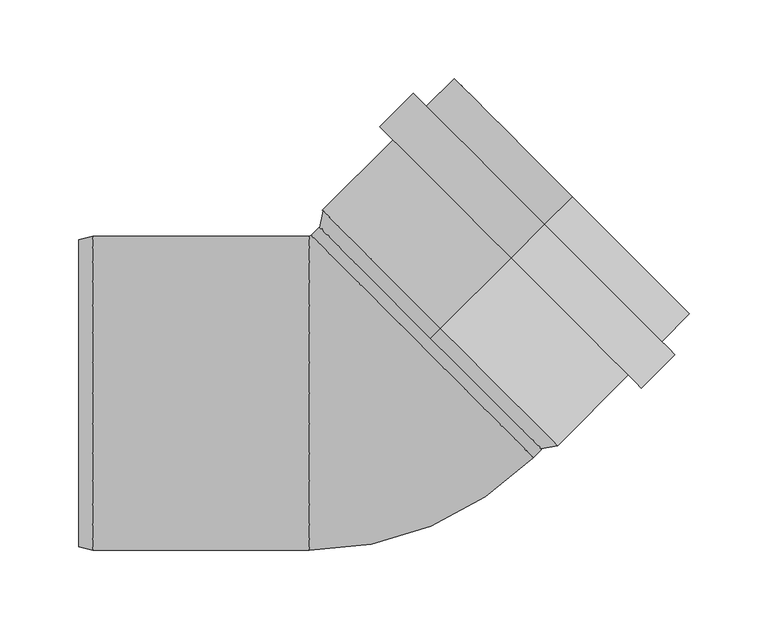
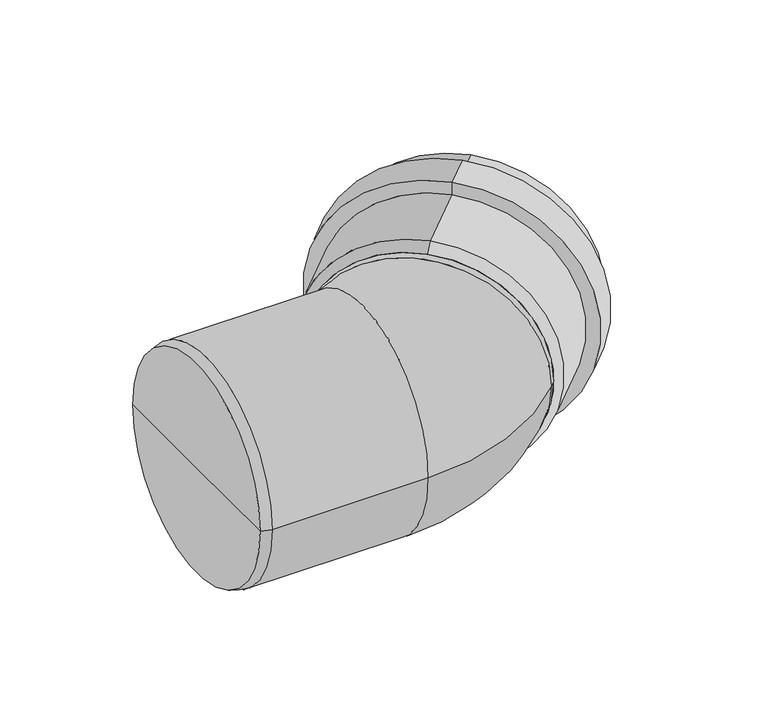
"""IFC4 building model written with IfcOpenShell, lengths in millimetres: pipe fitting geometry, OSMA_KG2000_PPKGB : Koleno 45°."""

from ifc_helpers import new_model, si_unit, point, frame, origin, place, context, project, spatial, polyline, circle_curve, ellipse_curve, trimmed, source, transform, mapped, element, save
from ifc_brep_helpers import plane_surface, cylinder_surface, revolved_surface, advanced_brep


def pipe_fitting_bca91d10(model_context):
    return source(origin(), model_context, "Body", "AdvancedBrep", [
        advanced_brep(
        [(41.3657467, 41.3657467, 100.0), (41.3657467, 41.3657467, -100.0), (125.1579003, 125.1579003, -100.0), (125.1579003, 125.1579003, 100.0), (86.2670273, 86.2670273, 106.2), (86.2670273, 86.2670273, -106.2), (41.3657467, 41.3657467, -106.2), (41.3657467, 41.3657467, 106.2), (86.2670273, 86.2670273, 118.0), (86.2670273, 86.2670273, -118.0), (107.4802307, 107.4802307, 118.0), (107.4802307, 107.4802307, -118.0), (107.4802307, 107.4802307, 106.2), (107.4802307, 107.4802307, -106.2), (125.1579003, 125.1579003, 106.2), (125.1579003, 125.1579003, -106.2), (35.0017857, 35.0017857, 93.8), (35.0017857, 35.0017857, -93.8), (35.0017857, 35.0017857, 100.0), (35.0017857, 35.0017857, -100.0)],
        [
            (0, 1, circle_curve(frame((41.3657467, 41.3657467, 0.0), z_axis=(-0.707106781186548, -0.707106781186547, 0.0), x_axis=(0.0, 0.0, -1.0)), 100.0)),
            (1, 2),
            (2, 3, circle_curve(frame((125.1579003, 125.1579003, 0.0), z_axis=(0.707106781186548, 0.707106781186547, 0.0), x_axis=(0.0, 0.0, -1.0)), 100.0)),
            (3, 0),
            (1, 0, circle_curve(frame((41.3657467, 41.3657467, 0.0), z_axis=(-0.707106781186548, -0.707106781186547, 0.0), x_axis=(0.0, 0.0, -1.0)), 100.0)),
            (3, 2, circle_curve(frame((125.1579003, 125.1579003, 0.0), z_axis=(0.707106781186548, 0.707106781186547, 0.0), x_axis=(0.0, 0.0, -1.0)), 100.0)),
            (4, 5, circle_curve(frame((86.2670273, 86.2670273, 0.0), z_axis=(-0.707106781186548, -0.707106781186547, 0.0), x_axis=(0.0, 0.0, -1.0)), 106.2)),
            (5, 6),
            (6, 7, circle_curve(frame((41.3657467, 41.3657467, 0.0), z_axis=(0.707106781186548, 0.707106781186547, 0.0), x_axis=(0.0, 0.0, -1.0)), 106.2)),
            (7, 4),
            (5, 4, circle_curve(frame((86.2670273, 86.2670273, 0.0), z_axis=(-0.707106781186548, -0.707106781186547, 0.0), x_axis=(0.0, 0.0, -1.0)), 106.2)),
            (7, 6, circle_curve(frame((41.3657467, 41.3657467, 0.0), z_axis=(0.707106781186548, 0.707106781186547, 0.0), x_axis=(0.0, 0.0, -1.0)), 106.2)),
            (8, 9, circle_curve(frame((86.2670273, 86.2670273, 0.0), z_axis=(-0.707106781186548, -0.707106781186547, 0.0), x_axis=(0.0, 0.0, -1.0)), 118.0)),
            (9, 5),
            (4, 8),
            (9, 8, circle_curve(frame((86.2670273, 86.2670273, 0.0), z_axis=(-0.707106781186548, -0.707106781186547, 0.0), x_axis=(0.0, 0.0, -1.0)), 118.0)),
            (10, 11, circle_curve(frame((107.4802307, 107.4802307, 0.0), z_axis=(-0.707106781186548, -0.707106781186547, 0.0), x_axis=(0.0, 0.0, -1.0)), 118.0)),
            (11, 9),
            (8, 10),
            (11, 10, circle_curve(frame((107.4802307, 107.4802307, 0.0), z_axis=(-0.707106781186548, -0.707106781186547, 0.0), x_axis=(0.0, 0.0, -1.0)), 118.0)),
            (12, 13, circle_curve(frame((107.4802307, 107.4802307, 0.0), z_axis=(-0.707106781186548, -0.707106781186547, 0.0), x_axis=(0.0, 0.0, -1.0)), 106.2)),
            (13, 11),
            (10, 12),
            (13, 12, circle_curve(frame((107.4802307, 107.4802307, 0.0), z_axis=(-0.707106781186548, -0.707106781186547, 0.0), x_axis=(0.0, 0.0, -1.0)), 106.2)),
            (14, 15, circle_curve(frame((125.1579003, 125.1579003, 0.0), z_axis=(-0.707106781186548, -0.707106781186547, 0.0), x_axis=(0.0, 0.0, -1.0)), 106.2)),
            (15, 13),
            (12, 14),
            (15, 14, circle_curve(frame((125.1579003, 125.1579003, 0.0), z_axis=(-0.707106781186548, -0.707106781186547, 0.0), x_axis=(0.0, 0.0, -1.0)), 106.2)),
            (2, 15),
            (14, 3),
            (16, 17, circle_curve(frame((35.0017857, 35.0017857, 0.0), z_axis=(-0.707106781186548, -0.707106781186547, 0.0), x_axis=(0.0, 0.0, -1.0)), 93.8)),
            (17, 1),
            (0, 16),
            (17, 16, circle_curve(frame((35.0017857, 35.0017857, 0.0), z_axis=(-0.707106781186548, -0.707106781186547, 0.0), x_axis=(0.0, 0.0, -1.0)), 93.8)),
            (18, 19, circle_curve(frame((35.0017857, 35.0017857, 0.0), z_axis=(-0.707106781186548, -0.707106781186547, 0.0), x_axis=(0.0, 0.0, -1.0)), 100.0)),
            (19, 17),
            (16, 18),
            (19, 18, circle_curve(frame((35.0017857, 35.0017857, 0.0), z_axis=(-0.707106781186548, -0.707106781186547, 0.0), x_axis=(0.0, 0.0, -1.0)), 100.0)),
            (6, 19),
            (18, 7),
        ],
        [
            revolved_surface(polyline([(125.15790029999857, 125.1579003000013, -100.0), (41.36574669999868, 41.36574670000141, -100.0)]), (2012.7612233, 2012.7612233, 0.0), (0.707106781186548, 0.707106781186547, 0.0)),
            cylinder_surface(frame((2012.7612233, 2012.7612233, 0.0), z_axis=(0.707106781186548, 0.707106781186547, 0.0), x_axis=(0.0, 0.0, -1.0)), 106.2),
            plane_surface(frame((86.2670273, 86.2670273, 0.0), z_axis=(-0.707106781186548, -0.707106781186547, 0.0), x_axis=(0.0, 0.0, -1.0))),
            cylinder_surface(frame((2012.7612233, 2012.7612233, 0.0), z_axis=(0.707106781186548, 0.707106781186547, 0.0), x_axis=(0.0, 0.0, -1.0)), 118.0),
            plane_surface(frame((107.4802307, 107.4802307, 0.0), z_axis=(0.707106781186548, 0.707106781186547, 0.0), x_axis=(0.0, 0.0, -1.0))),
            plane_surface(frame((125.1579003, 125.1579003, 0.0), z_axis=(0.707106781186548, 0.707106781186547, 0.0), x_axis=(0.0, 0.0, -1.0))),
            revolved_surface(polyline([(41.3657467, 41.3657467, -100.0), (35.0017857, 35.0017857, -93.8)]), (2012.7612233, 2012.7612233, 0.0), (0.707106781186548, 0.707106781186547, 0.0)),
            plane_surface(frame((35.0017857, 35.0017857, 0.0), z_axis=(-0.707106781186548, -0.707106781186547, 0.0), x_axis=(0.0, 0.0, -1.0))),
            revolved_surface(polyline([(35.0017857, 35.0017857, -100.0), (41.3657467, 41.3657467, -106.2)]), (2012.7612233, 2012.7612233, 0.0), (0.707106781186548, 0.707106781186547, 0.0)),
        ],
        [
            (0, [[1, 2, 3, 4]]),
            (0, [[5, -4, 6, -2]]),
            (1, [[7, 8, 9, 10]]),
            (1, [[11, -10, 12, -8]]),
            (2, [[13, 14, -7, 15]]),
            (2, [[16, -15, -11, -14]]),
            (3, [[17, 18, -13, 19]]),
            (3, [[20, -19, -16, -18]]),
            (4, [[21, 22, -17, 23]]),
            (4, [[24, -23, -20, -22]]),
            (1, [[25, 26, -21, 27]]),
            (1, [[28, -27, -24, -26]]),
            (5, [[-3, 29, -25, 30]]),
            (5, [[-6, -30, -28, -29]]),
            (6, [[31, 32, -1, 33]]),
            (6, [[34, -33, -5, -32]]),
            (7, [[35, 36, -31, 37]]),
            (7, [[38, -37, -34, -36]]),
            (8, [[-9, 39, -35, 40]]),
            (8, [[-12, -40, -38, -39]]),
        ],
    ),
        advanced_brep(
        [(-40.9820164, 100.4393398, 0.0), (-42.0426766, 100.0, 0.0), (-42.0426766, -100.0, 0.0), (100.4393398, -40.9820164, 0.0), (29.7286617, 29.7286617, 100.0), (29.7286617, 29.7286617, -100.0), (-189.0, 0.0, 0.0), (-189.0, 97.5884572, 0.0), (-189.0, -97.5884572, 0.0), (-180.0, 100.0, 0.0), (-180.0, -100.0, 0.0), (111.0157646, -30.4055916, 0.0), (-30.4055916, 111.0157646, 0.0)],
        [
            (0, 1, circle_curve(frame((-42.0426766, 101.5, 0.0), z_axis=(0.0, 0.0, -1.0), x_axis=(0.0, -1.0, 0.0)), 1.5)),
            (1, 2, circle_curve(frame((-42.0426766, 0.0, 0.0), z_axis=(1.0, 0.0, 0.0), x_axis=(0.0, 1.0, 0.0)), 100.0)),
            (2, 3, circle_curve(frame((-42.0426766, 101.5, 0.0), z_axis=(0.0, 0.0, 1.0), x_axis=(0.0, -1.0, 0.0)), 201.5)),
            (3, 4, circle_curve(frame((29.7286617, 29.7286617, 0.0), z_axis=(-0.7071067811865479, -0.7071067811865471, 0.0), x_axis=(-0.7071067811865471, 0.7071067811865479, 0.0)), 100.0)),
            (4, 0, circle_curve(frame((29.7286617, 29.7286617, 0.0), z_axis=(-0.7071067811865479, -0.7071067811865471, 0.0), x_axis=(-0.7071067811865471, 0.7071067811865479, 0.0)), 100.0)),
            (0, 5, circle_curve(frame((29.7286617, 29.7286617, 0.0), z_axis=(-0.7071067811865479, -0.7071067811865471, 0.0), x_axis=(-0.7071067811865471, 0.7071067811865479, 0.0)), 100.0)),
            (5, 3, circle_curve(frame((29.7286617, 29.7286617, 0.0), z_axis=(-0.7071067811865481, -0.7071067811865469, 0.0), x_axis=(-0.7071067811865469, 0.7071067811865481, 0.0)), 100.0)),
            (2, 1, circle_curve(frame((-42.0426766, 0.0, 0.0), z_axis=(1.0, 0.0, 0.0), x_axis=(0.0, 1.0, 0.0)), 100.0)),
            (6, 7),
            (7, 8, circle_curve(frame((-189.0, 0.0, 0.0), z_axis=(-1.0, 0.0, 0.0), x_axis=(0.0, 1.0, 0.0)), 97.5884572)),
            (8, 6),
            (8, 7, circle_curve(frame((-189.0, 0.0, 0.0), z_axis=(-1.0, 0.0, 0.0), x_axis=(0.0, 1.0, 0.0)), 97.5884572)),
            (7, 9),
            (9, 10, circle_curve(frame((-180.0, 0.0, 0.0), z_axis=(-1.0, 0.0, 0.0), x_axis=(0.0, 1.0, 0.0)), 100.0)),
            (10, 8),
            (10, 9, circle_curve(frame((-180.0, 0.0, 0.0), z_axis=(-1.0, 0.0, 0.0), x_axis=(0.0, 1.0, 0.0)), 100.0)),
            (9, 1),
            (2, 10),
            (11, 12, circle_curve(frame((40.3050865, 40.3050865, 0.0), z_axis=(0.7071067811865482, 0.707106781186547, 0.0), x_axis=(-0.707106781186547, 0.7071067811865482, 0.0)), 100.0)),
            (12, 11, circle_curve(frame((40.3050865, 40.3050865, 0.0), z_axis=(0.7071067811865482, 0.707106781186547, 0.0), x_axis=(-0.707106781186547, 0.7071067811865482, 0.0)), 100.0)),
            (12, 0),
            (3, 11),
        ],
        [
            revolved_surface(trimmed(ellipse_curve(frame((-42.0426766, 0.0, 0.0), z_axis=(-1.0, 0.0, 0.0), x_axis=(0.0, 1.0, 0.0)), 100.0, 100.0), [point((-42.0426766, -100.0, 0.0))], [point((-42.0426766, 100.0, 0.0))], True, "CARTESIAN"), (-42.0426766, 101.5, 0.0), (0.0, 0.0, 1.0)),
            revolved_surface(trimmed(ellipse_curve(frame((-42.0426766, 0.0, 0.0), z_axis=(-1.0, 0.0, 0.0), x_axis=(0.0, 1.0, 0.0)), 100.0, 100.0), [point((-42.0426766, 100.0, 0.0))], [point((-42.0426766, -100.0, 0.0))], True, "CARTESIAN"), (-42.0426766, 101.5, 0.0), (0.0, 0.0, 1.0)),
            plane_surface(frame((-189.0, 0.0, 0.0), z_axis=(-1.0, 0.0, 0.0), x_axis=(0.0, 1.0, 0.0))),
            revolved_surface(polyline([(-180.0, 100.0, 0.0), (-189.0, 97.5884572, 0.0)]), (331.0587718, 0.0, 0.0), (-1.0, 0.0, 0.0)),
            cylinder_surface(frame((331.0587718, 0.0, 0.0), z_axis=(-1.0, 0.0, 0.0), x_axis=(0.0, 1.0, 0.0)), 100.0),
            plane_surface(frame((40.3050865, 40.3050865, 0.0), z_axis=(0.7071067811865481, 0.7071067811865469, 0.0), x_axis=(0.0, 0.0, 1.0))),
            cylinder_surface(frame((29.7286617, 29.7286617, 0.0), z_axis=(-0.7071067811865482, -0.707106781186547, 0.0), x_axis=(-0.707106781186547, 0.7071067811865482, 0.0)), 100.0),
        ],
        [
            (0, [[1, 2, 3, 4, 5]]),
            (1, [[-1, 6, 7, -3, 8]]),
            (2, [[9, 10, 11]]),
            (2, [[-9, -11, 12]]),
            (3, [[-10, 13, 14, 15]]),
            (3, [[-12, -15, 16, -13]]),
            (4, [[-14, 17, -8, 18]]),
            (4, [[-16, -18, -2, -17]]),
            (5, [[19, 20]]),
            (6, [[-20, 21, -5, -4, 22]]),
            (6, [[-19, -22, -7, -6, -21]]),
        ],
    ),
    ])


if __name__ == "__main__":
    model = new_model("IFC4")
    model_context = context("Model", 3, world=origin())
    ifc_project = project(units=[si_unit("LENGTHUNIT", "METRE", prefix="MILLI")], contexts=[model_context])
    site = spatial("IfcSite", under=ifc_project)
    building = spatial("IfcBuilding", under=site)
    placement = place(None, origin())
    pipe_fitting_shape = pipe_fitting_bca91d10(model_context)
    element("IfcPipeFitting", 1, ObjectType="OSMA_KG2000_PPKGB : Koleno 45°", at=placement, inside=building, context=model_context, shape_type="MappedRepresentation", body=[
        mapped(pipe_fitting_shape, transform((0.0, 0.0, 0.0), x_axis=(1.0, 0.0, 0.0), y_axis=(0.0, 1.0, 0.0), z_axis=(0.0, 0.0, 1.0))),
    ])
    save(model, "model.ifc")
